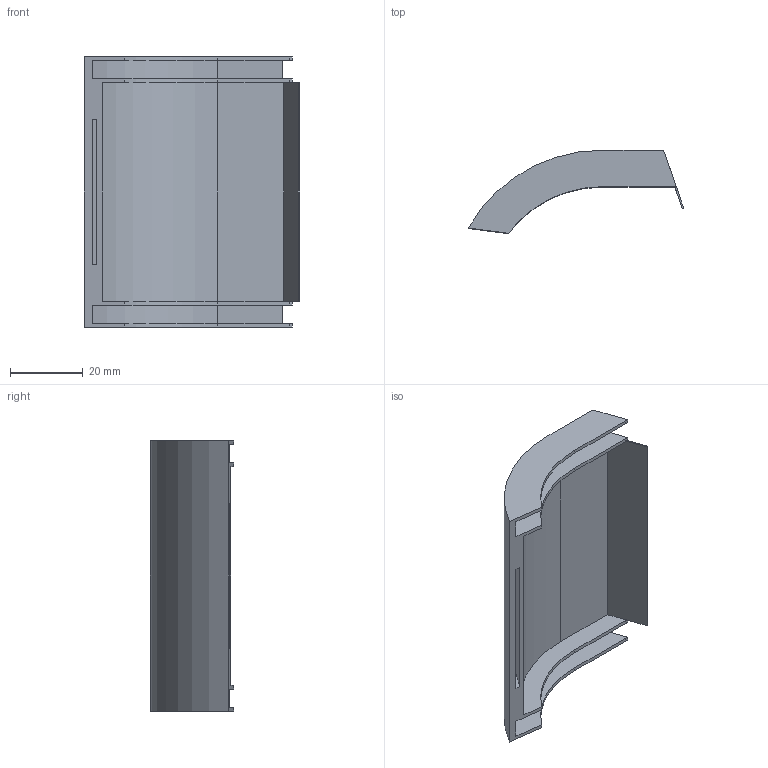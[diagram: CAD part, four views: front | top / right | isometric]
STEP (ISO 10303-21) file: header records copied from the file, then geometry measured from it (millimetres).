
FILE_DESCRIPTION(('STEP AP203'), '1');
FILE_NAME('ðåçîíàòîð 2', '', ('UNSPECIFIED'), ('UNSPECIFIED'), 'ASCON STEP Converter 1.3', 'ASCON Math Kernel', '');
FILE_SCHEMA(('CONFIG_CONTROL_DESIGN'));
Length unit declared in the file: millimetre
Bounding box: 59.04 x 22.75 x 74 mm (x, y, z)
Volume: 16795.9 mm3; surface area: 19062.2 mm2
Topology: 1 solids, 1 shells, 41 faces, 115 edges, 76 vertices
Faces by surface type: plane 27, cylinder 14
Entity records: 1699 total; most frequent: CARTESIAN_POINT 233, ORIENTED_EDGE 230, DIRECTION 229, EDGE_CURVE 115, LINE 85, VECTOR 85, VERTEX_POINT 76, AXIS2_PLACEMENT_3D 72
